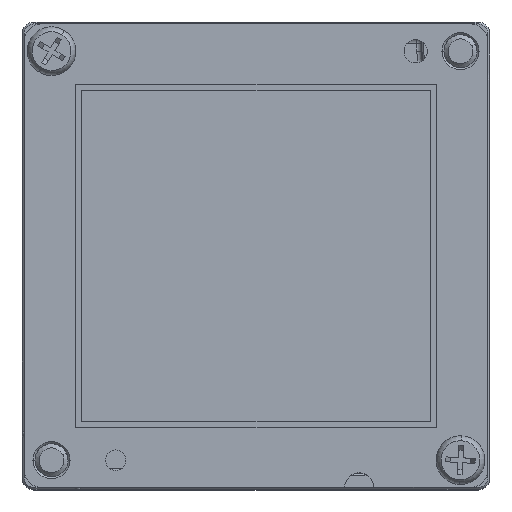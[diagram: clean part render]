
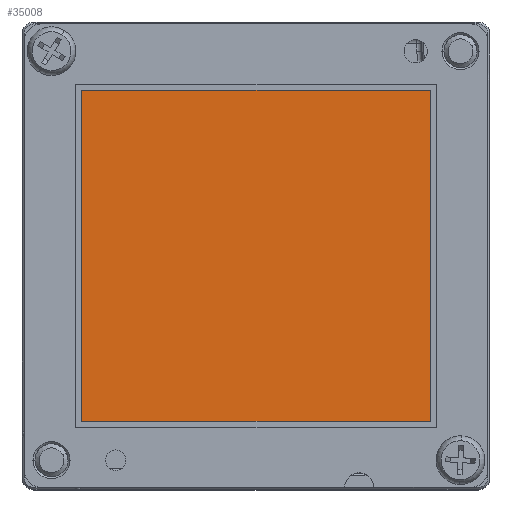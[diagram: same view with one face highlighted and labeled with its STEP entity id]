
A CAD part, top view. The second image highlights one B-rep face of the part: STEP entity #35008.
In plain terms, the highlighted planar face has unit normal (0, 0, 1).
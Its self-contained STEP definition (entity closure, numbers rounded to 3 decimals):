
#1590 = EDGE_CURVE ( 'NONE', #92140, #82049, #48812, .T. ) ;
#7041 = CARTESIAN_POINT ( 'NONE',  ( -8.95, 8.5, 1.785 ) ) ;
#8383 = CARTESIAN_POINT ( 'NONE',  ( 8.95, 8.5, 1.785 ) ) ;
#9586 = CARTESIAN_POINT ( 'NONE',  ( -8.95, -8.5, 1.785 ) ) ;
#10378 = CARTESIAN_POINT ( 'NONE',  ( 8.95, -8.5, 1.785 ) ) ;
#12460 = DIRECTION ( 'NONE',  ( 0., 0., 1. ) ) ;
#19228 = LINE ( 'NONE', #10378, #90882 ) ;
#22223 = DIRECTION ( 'NONE',  ( 0., -1., 0. ) ) ;
#24335 = VERTEX_POINT ( 'NONE', #30838 ) ;
#26595 = VERTEX_POINT ( 'NONE', #8383 ) ;
#29085 = CARTESIAN_POINT ( 'NONE',  ( 0., 0., 1.785 ) ) ;
#30620 = EDGE_LOOP ( 'NONE', ( #92560, #55082, #57213, #72821 ) ) ;
#30838 = CARTESIAN_POINT ( 'NONE',  ( 8.95, -8.5, 1.785 ) ) ;
#34768 = DIRECTION ( 'NONE',  ( 0., 1., 0. ) ) ;
#35008 = ADVANCED_FACE ( 'NONE', ( #44608 ), #78388, .T. ) ;
#44608 = FACE_OUTER_BOUND ( 'NONE', #30620, .T. ) ;
#44995 = LINE ( 'NONE', #104745, #60316 ) ;
#46265 = DIRECTION ( 'NONE',  ( 1., 0., 0. ) ) ;
#48812 = LINE ( 'NONE', #99140, #69385 ) ;
#53212 = LINE ( 'NONE', #75956, #92680 ) ;
#55082 = ORIENTED_EDGE ( 'NONE', *, *, #63884, .T. ) ;
#57213 = ORIENTED_EDGE ( 'NONE', *, *, #92506, .T. ) ;
#57392 = AXIS2_PLACEMENT_3D ( 'NONE', #29085, #12460, #46265 ) ;
#60316 = VECTOR ( 'NONE', #78768, 1000. ) ;
#63884 = EDGE_CURVE ( 'NONE', #24335, #26595, #19228, .T. ) ;
#69385 = VECTOR ( 'NONE', #22223, 1000. ) ;
#72821 = ORIENTED_EDGE ( 'NONE', *, *, #1590, .T. ) ;
#75956 = CARTESIAN_POINT ( 'NONE',  ( -8.95, 8.5, 1.785 ) ) ;
#78388 = PLANE ( 'NONE',  #57392 ) ;
#78768 = DIRECTION ( 'NONE',  ( 1., 0., 0. ) ) ;
#82049 = VERTEX_POINT ( 'NONE', #9586 ) ;
#90882 = VECTOR ( 'NONE', #34768, 1000. ) ;
#91271 = EDGE_CURVE ( 'NONE', #82049, #24335, #44995, .T. ) ;
#92140 = VERTEX_POINT ( 'NONE', #7041 ) ;
#92506 = EDGE_CURVE ( 'NONE', #26595, #92140, #53212, .T. ) ;
#92560 = ORIENTED_EDGE ( 'NONE', *, *, #91271, .T. ) ;
#92680 = VECTOR ( 'NONE', #101386, 1000. ) ;
#99140 = CARTESIAN_POINT ( 'NONE',  ( -8.95, -8.5, 1.785 ) ) ;
#101386 = DIRECTION ( 'NONE',  ( -1., 0., 0. ) ) ;
#104745 = CARTESIAN_POINT ( 'NONE',  ( -8.95, -8.5, 1.785 ) ) ;
